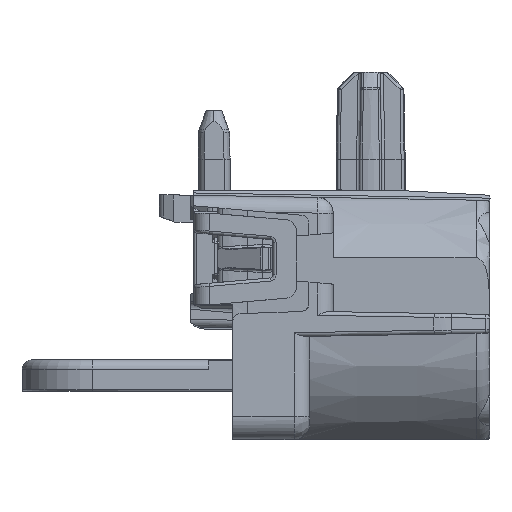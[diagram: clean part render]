
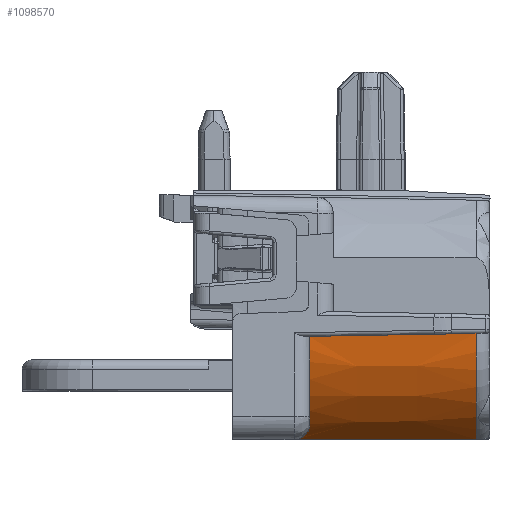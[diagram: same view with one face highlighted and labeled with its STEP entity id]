
A CAD part, left-side view. The second image highlights one B-rep face of the part: STEP entity #1098570.
In plain terms, the highlighted conical face has half-angle 1 degrees and reference radius 7.85 mm.
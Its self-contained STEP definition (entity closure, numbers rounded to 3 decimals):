
#258340=CARTESIAN_POINT('',(-7.593,5.22,
-8.411));
#258350=DIRECTION('',(0.,0.,1.));
#258360=DIRECTION('',(1.,0.,0.));
#258370=AXIS2_PLACEMENT_3D('',#258340,#258350,#258360);
#258380=CIRCLE('',#258370,7.869);
#258390=CARTESIAN_POINT('',(-3.896,-1.727,
-8.411));
#258400=VERTEX_POINT('',#258390);
#258410=CARTESIAN_POINT('',(0.274,5.036,
-8.411));
#258420=VERTEX_POINT('',#258410);
#258430=EDGE_CURVE('',#258400,#258420,#258380,.T.);
#258450=CARTESIAN_POINT('',(2.361,5.138,0.));
#258460=DIRECTION('',(0.243,-0.017,
0.97));
#258470=DIRECTION('',(0.97,0.,-0.243));
#258480=AXIS2_PLACEMENT_3D('',#258450,#258460,#258470);
#258490=CYLINDRICAL_SURFACE('',#258480,0.25);
#258690=CARTESIAN_POINT('',(-0.492,5.026,
-7.916));
#258700=DIRECTION('',(0.,1.,
0.017));
#258710=DIRECTION('',(0.,-0.017,
1.));
#258720=AXIS2_PLACEMENT_3D('',#258690,#258700,#258710);
#258730=PLANE('',#258720);
#356730=CARTESIAN_POINT('',(0.,-0.75,3.205));
#356740=DIRECTION('',(1.,0.,0.));
#356750=DIRECTION('',(0.,-1.,0.));
#356760=AXIS2_PLACEMENT_3D('',#356730,#356740,#356750);
#356770=CYLINDRICAL_SURFACE('',#356760,1.);
#356910=CARTESIAN_POINT('',(-2.187,-0.75,
2.205));
#356920=VERTEX_POINT('',#356910);
#356950=CARTESIAN_POINT('',(-7.593,5.22,
-9.495));
#356960=DIRECTION('',(0.,0.,1.));
#356970=DIRECTION('',(-1.,0.,0.));
#356980=AXIS2_PLACEMENT_3D('',#356950,#356960,#356970);
#356990=CONICAL_SURFACE('',#356980,7.85,0.017);
#357000=CARTESIAN_POINT('',(-2.187,-0.75,
2.205));
#357010=CARTESIAN_POINT('',(-2.302,-0.854,
2.205));
#357020=CARTESIAN_POINT('',(-2.421,-0.957,
2.221));
#357030=CARTESIAN_POINT('',(-2.54,-1.053,
2.252));
#357040=CARTESIAN_POINT('',(-2.66,-1.15,
2.283));
#357050=CARTESIAN_POINT('',(-2.779,-1.242,
2.328));
#357060=CARTESIAN_POINT('',(-2.896,-1.326,
2.388));
#357070=CARTESIAN_POINT('',(-3.012,-1.411,
2.447));
#357080=CARTESIAN_POINT('',(-3.127,-1.491,
2.523));
#357090=CARTESIAN_POINT('',(-3.23,-1.559,
2.617));
#357100=CARTESIAN_POINT('',(-3.333,-1.627,
2.71));
#357110=CARTESIAN_POINT('',(-3.429,-1.688,
2.827));
#357120=CARTESIAN_POINT('',(-3.483,-1.722,
2.97));
#357130=B_SPLINE_CURVE_WITH_KNOTS('',3,(#357000,#357010,#357020,#357030,
#357040,#357050,#357060,#357070,#357080,#357090,#357100,#357110,#357120)
,.UNSPECIFIED.,.F.,.F.,(4,3,3,3,4),(0.,0.469,
0.938,1.407,1.876),.UNSPECIFIED.);
#357140=SURFACE_CURVE('',#357130,(#356990,#356770),.CURVE_3D.);
#357150=CARTESIAN_POINT('',(-3.483,-1.722,
2.97));
#357160=VERTEX_POINT('',#357150);
#357170=EDGE_CURVE('',#356920,#357160,#357140,.T.);
#775370=CARTESIAN_POINT('',(0.205,0.,3.205));
#775380=DIRECTION('',(0.,-1.,0.));
#775390=DIRECTION('',(-1.,0.,0.));
#775400=AXIS2_PLACEMENT_3D('',#775370,#775380,#775390);
#775410=CYLINDRICAL_SURFACE('',#775400,1.);
#887360=CARTESIAN_POINT('',(0.205,3.205,
2.205));
#887370=VERTEX_POINT('',#887360);
#887400=CARTESIAN_POINT('',(-7.593,5.22,
2.205));
#887410=DIRECTION('',(0.,0.,1.));
#887420=DIRECTION('',(-1.,0.,0.));
#887430=AXIS2_PLACEMENT_3D('',#887400,#887410,#887420);
#887440=CIRCLE('',#887430,8.054);
#887450=EDGE_CURVE('',#356920,#887370,#887440,.T.);
#970180=CARTESIAN_POINT('',(-3.896,-1.727,
-8.411));
#970190=CARTESIAN_POINT('',(-3.895,-1.727,
-8.375));
#970200=CARTESIAN_POINT('',(-3.893,-1.726,
-8.338));
#970210=CARTESIAN_POINT('',(-3.821,-1.726,
-6.425));
#970220=CARTESIAN_POINT('',(-3.752,-1.725,
-4.548));
#970230=CARTESIAN_POINT('',(-3.613,-1.723,
-0.724));
#970240=CARTESIAN_POINT('',(-3.544,-1.723,
1.223));
#970250=CARTESIAN_POINT('',(-3.476,-1.722,
3.17));
#970260=B_SPLINE_CURVE_WITH_KNOTS('',3,(#970180,#970190,#970200,#970210,
#970220,#970230,#970240,#970250),.UNSPECIFIED.,.F.,.F.,(4,2,2,4),(0.,
0.11,5.744,11.588),.UNSPECIFIED.);
#970270=EDGE_CURVE('',#258400,#357160,#970260,.T.);
#1042790=CARTESIAN_POINT('',(0.275,5.033,
-8.32));
#1042800=CARTESIAN_POINT('',(0.275,5.033,
-8.327));
#1042810=CARTESIAN_POINT('',(0.275,5.033,
-8.335));
#1042820=CARTESIAN_POINT('',(0.275,5.034,
-8.342));
#1042830=CARTESIAN_POINT('',(0.275,5.034,
-8.35));
#1042840=CARTESIAN_POINT('',(0.275,5.034,
-8.358));
#1042850=CARTESIAN_POINT('',(0.275,5.034,
-8.365));
#1042860=CARTESIAN_POINT('',(0.274,5.034,
-8.373));
#1042870=CARTESIAN_POINT('',(0.274,5.035,
-8.381));
#1042880=CARTESIAN_POINT('',(0.274,5.035,
-8.388));
#1042890=CARTESIAN_POINT('',(0.274,5.035,
-8.396));
#1042900=CARTESIAN_POINT('',(0.274,5.035,
-8.403));
#1042910=CARTESIAN_POINT('',(0.274,5.036,
-8.411));
#1042920=B_SPLINE_CURVE_WITH_KNOTS('',3,(#1042790,#1042800,#1042810,
#1042820,#1042830,#1042840,#1042850,#1042860,#1042870,#1042880,#1042890,
#1042900,#1042910),.UNSPECIFIED.,.F.,.F.,(4,3,3,3,4),(0.,
0.023,0.046,0.069,
0.091),.UNSPECIFIED.);
#1042930=SURFACE_CURVE('',#1042920,(#356990,#258490),.CURVE_3D.);
#1042940=CARTESIAN_POINT('',(0.275,5.033,
-8.32));
#1042950=VERTEX_POINT('',#1042940);
#1042960=EDGE_CURVE('',#1042950,#258420,#1042930,.T.);
#1047040=CARTESIAN_POINT('',(0.453,4.849,
2.236));
#1047050=VERTEX_POINT('',#1047040);
#1047080=CARTESIAN_POINT('',(0.453,4.849,
2.236));
#1047090=CARTESIAN_POINT('',(0.447,4.71,
2.234));
#1047100=CARTESIAN_POINT('',(0.437,4.572,
2.232));
#1047110=CARTESIAN_POINT('',(0.423,4.434,
2.229));
#1047120=CARTESIAN_POINT('',(0.41,4.296,
2.226));
#1047130=CARTESIAN_POINT('',(0.392,4.158,
2.222));
#1047140=CARTESIAN_POINT('',(0.372,4.02,
2.219));
#1047150=CARTESIAN_POINT('',(0.351,3.883,
2.215));
#1047160=CARTESIAN_POINT('',(0.327,3.746,
2.212));
#1047170=CARTESIAN_POINT('',(0.299,3.61,
2.209));
#1047180=CARTESIAN_POINT('',(0.271,3.474,
2.206));
#1047190=CARTESIAN_POINT('',(0.24,3.339,
2.205));
#1047200=CARTESIAN_POINT('',(0.205,3.205,
2.205));
#1047210=B_SPLINE_CURVE_WITH_KNOTS('',3,(#1047080,#1047090,#1047100,
#1047110,#1047120,#1047130,#1047140,#1047150,#1047160,#1047170,#1047180,
#1047190,#1047200),.UNSPECIFIED.,.F.,.F.,(4,3,3,3,4),(0.,
0.416,0.833,1.25,1.666),
.UNSPECIFIED.);
#1047220=SURFACE_CURVE('',#1047210,(#775410,#356990),.CURVE_3D.);
#1047230=EDGE_CURVE('',#1047050,#887370,#1047220,.T.);
#1098320=ORIENTED_EDGE('',*,*,#357170,.T.);
#1098330=ORIENTED_EDGE('',*,*,#887450,.F.);
#1098340=ORIENTED_EDGE('',*,*,#1047230,.T.);
#1098350=CARTESIAN_POINT('',(0.275,5.033,
-8.32));
#1098360=CARTESIAN_POINT('',(0.29,5.018,
-7.44));
#1098370=CARTESIAN_POINT('',(0.305,5.002,
-6.56));
#1098380=CARTESIAN_POINT('',(0.32,4.987,
-5.681));
#1098390=CARTESIAN_POINT('',(0.335,4.972,
-4.801));
#1098400=CARTESIAN_POINT('',(0.35,4.956,
-3.921));
#1098410=CARTESIAN_POINT('',(0.365,4.941,
-3.042));
#1098420=CARTESIAN_POINT('',(0.38,4.926,
-2.162));
#1098430=CARTESIAN_POINT('',(0.394,4.91,
-1.283));
#1098440=CARTESIAN_POINT('',(0.409,4.895,
-0.403));
#1098450=CARTESIAN_POINT('',(0.424,4.88,
0.477));
#1098460=CARTESIAN_POINT('',(0.439,4.864,
1.356));
#1098470=CARTESIAN_POINT('',(0.453,4.849,
2.236));
#1098480=B_SPLINE_CURVE_WITH_KNOTS('',3,(#1098350,#1098360,#1098370,
#1098380,#1098390,#1098400,#1098410,#1098420,#1098430,#1098440,#1098450,
#1098460,#1098470),.UNSPECIFIED.,.F.,.F.,(4,3,3,3,4),(0.,
2.64,5.279,7.919,10.559),
.UNSPECIFIED.);
#1098490=SURFACE_CURVE('',#1098480,(#356990,#258730),.CURVE_3D.);
#1098500=EDGE_CURVE('',#1042950,#1047050,#1098490,.T.);
#1098510=ORIENTED_EDGE('',*,*,#1098500,.T.);
#1098520=ORIENTED_EDGE('',*,*,#1042960,.F.);
#1098530=ORIENTED_EDGE('',*,*,#258430,.T.);
#1098540=ORIENTED_EDGE('',*,*,#970270,.F.);
#1098550=EDGE_LOOP('',(#1098540,#1098530,#1098520,#1098510,#1098340,
#1098330,#1098320));
#1098560=FACE_OUTER_BOUND('',#1098550,.T.);
#1098570=ADVANCED_FACE('',(#1098560),#356990,.T.);
